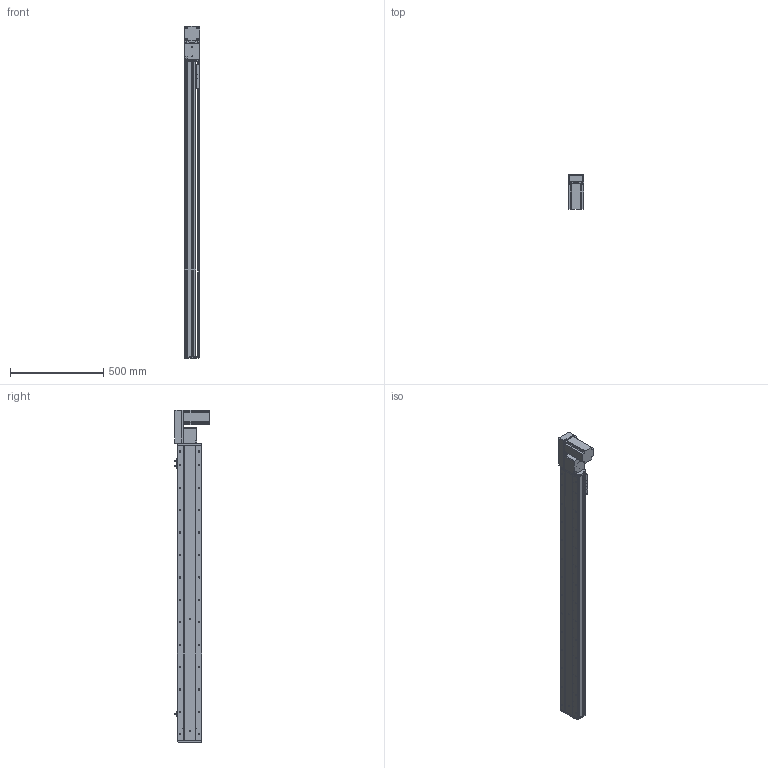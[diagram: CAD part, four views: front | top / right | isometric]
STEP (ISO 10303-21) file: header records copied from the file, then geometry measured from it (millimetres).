
FILE_DESCRIPTION (( 'STEP AP214' ), '1' );
FILE_NAME ('KSD130B-S1350-MRB-CM.STEP', '2019-11-15T07:40:25', ( '微软用户' ), ( '微软中国' ), 'SwSTEP 2.0', 'SolidWorks 2014', '' );
FILE_SCHEMA (( 'AUTOMOTIVE_DESIGN' ));
Length unit declared in the file: millimetre
Products named in the file (12): 台达ECMA－C20807AS伺服电机; 130宽模组保护罩上下左右折-同步带; 130宽模组马达安装板连板左右折同步带; 覜茼え100遵圉猾敕; U倰嫖萇EEㄜSX672; 130宽盖板半封闭同步带-1350行程; 130宽马达安装板同步带右-改镜向_默认<按加工>; 130宽马达安装板同步带半封闭; 130宽同步带安装座半封闭; 130宽端盖同步带半封闭; 130宽底板半封闭同步带-1350行程; KSD130B-S1350-MRB-CM
Assembly tree (13 placements, depth 2):
  KSD130B-S1350-MRB-CM
    130宽底板半封闭同步带-1350行程
    130宽端盖同步带半封闭
    130宽同步带安装座半封闭
    130宽马达安装板同步带半封闭
    130宽马达安装板同步带右-改镜向_默认<按加工>
    130宽盖板半封闭同步带-1350行程
    U倰嫖萇EEㄜSX672  x3
    覜茼え100遵圉猾敕
    130宽模组马达安装板连板左右折同步带
    130宽模组保护罩上下左右折-同步带
    台达ECMA－C20807AS伺服电机
Bounding box: 81 x 184.8 x 1777 mm (x, y, z)
Volume: 5931935 mm3; surface area: 1651643.3 mm2
Topology: 14 solids, 14 shells, 1629 faces, 4701 edges, 2991 vertices
Faces by surface type: cylinder 792, plane 638, cone 199
Entity records: 54647 total; most frequent: CARTESIAN_POINT 10388, DIRECTION 8267, ORIENTED_EDGE 7990, EDGE_CURVE 3995, AXIS2_PLACEMENT_3D 3030, VERTEX_POINT 2615, VECTOR 2207, LINE 2207
